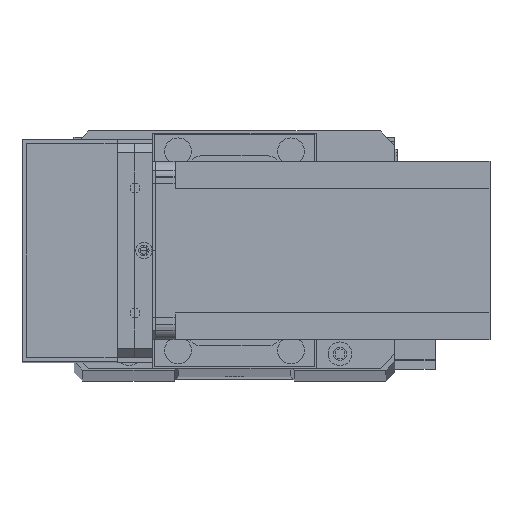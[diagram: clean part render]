
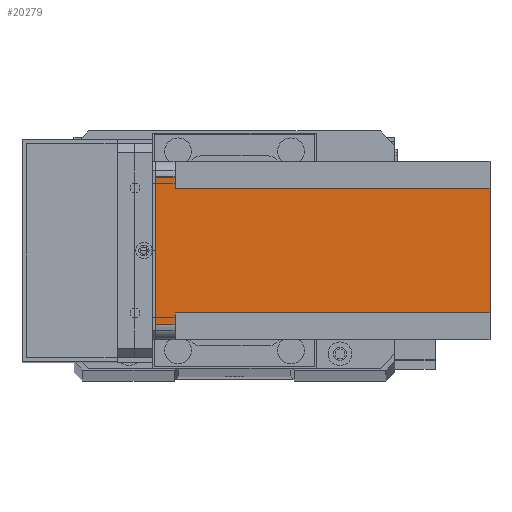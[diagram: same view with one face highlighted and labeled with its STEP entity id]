
A CAD part, top view. The second image highlights one B-rep face of the part: STEP entity #20279.
In plain terms, the highlighted planar face has unit normal (0, 0, 1) as drawn and (1, 0, 0) by its records, which use the part's own axes.
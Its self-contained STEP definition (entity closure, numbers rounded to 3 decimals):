
#136 = DIRECTION ( 'NONE',  ( 0., 0., 1. ) ) ;
#331 = LINE ( 'NONE', #11235, #26544 ) ;
#1109 = DIRECTION ( 'NONE',  ( 0., -1., 0. ) ) ;
#1323 = EDGE_LOOP ( 'NONE', ( #5227, #18314, #27863, #7318, #1377, #10550, #4519, #24403 ) ) ;
#1377 = ORIENTED_EDGE ( 'NONE', *, *, #31039, .F. ) ;
#1620 = VERTEX_POINT ( 'NONE', #7314 ) ;
#1891 = LINE ( 'NONE', #30210, #21368 ) ;
#2065 = VECTOR ( 'NONE', #3971, 1000. ) ;
#3132 = AXIS2_PLACEMENT_3D ( 'NONE', #15450, #20556, #5327 ) ;
#3971 = DIRECTION ( 'NONE',  ( 0., 0., -1. ) ) ;
#4093 = CARTESIAN_POINT ( 'NONE',  ( 60., 55., -6.5 ) ) ;
#4519 = ORIENTED_EDGE ( 'NONE', *, *, #14602, .T. ) ;
#4813 = EDGE_CURVE ( 'NONE', #21367, #29639, #8775, .T. ) ;
#5218 = PLANE ( 'NONE',  #3132 ) ;
#5227 = ORIENTED_EDGE ( 'NONE', *, *, #21858, .F. ) ;
#5327 = DIRECTION ( 'NONE',  ( 0., 1., 0. ) ) ;
#5756 = LINE ( 'NONE', #11071, #25225 ) ;
#5842 = LINE ( 'NONE', #30606, #18586 ) ;
#6790 = DIRECTION ( 'NONE',  ( 0., 0., -1. ) ) ;
#7314 = CARTESIAN_POINT ( 'NONE',  ( 60., 51., -112.5 ) ) ;
#7318 = ORIENTED_EDGE ( 'NONE', *, *, #4813, .T. ) ;
#7656 = CARTESIAN_POINT ( 'NONE',  ( 60., 51., -6.5 ) ) ;
#8471 = DIRECTION ( 'NONE',  ( 0., -1., 0. ) ) ;
#8775 = LINE ( 'NONE', #11660, #2065 ) ;
#8834 = EDGE_CURVE ( 'NONE', #12878, #22329, #29595, .T. ) ;
#10550 = ORIENTED_EDGE ( 'NONE', *, *, #8834, .F. ) ;
#11071 = CARTESIAN_POINT ( 'NONE',  ( 60., 60., -6.5 ) ) ;
#11235 = CARTESIAN_POINT ( 'NONE',  ( 60., 0., -6.5 ) ) ;
#11660 = CARTESIAN_POINT ( 'NONE',  ( 60., 5., -112.5 ) ) ;
#12064 = VECTOR ( 'NONE', #25606, 1000. ) ;
#12878 = VERTEX_POINT ( 'NONE', #17730 ) ;
#12967 = CARTESIAN_POINT ( 'NONE',  ( 60., 0., -112.5 ) ) ;
#13346 = FACE_OUTER_BOUND ( 'NONE', #1323, .T. ) ;
#13360 = EDGE_CURVE ( 'NONE', #17220, #27806, #5842, .T. ) ;
#14602 = EDGE_CURVE ( 'NONE', #12878, #1620, #18811, .T. ) ;
#14815 = DIRECTION ( 'NONE',  ( 0., 0., 1. ) ) ;
#15450 = CARTESIAN_POINT ( 'NONE',  ( 60., 0., -112.5 ) ) ;
#17220 = VERTEX_POINT ( 'NONE', #4093 ) ;
#17548 = DIRECTION ( 'NONE',  ( 0., 1., 0. ) ) ;
#17730 = CARTESIAN_POINT ( 'NONE',  ( 60., 9., -112.5 ) ) ;
#18314 = ORIENTED_EDGE ( 'NONE', *, *, #13360, .T. ) ;
#18515 = CARTESIAN_POINT ( 'NONE',  ( 60., 55., 0. ) ) ;
#18586 = VECTOR ( 'NONE', #136, 1000. ) ;
#18811 = LINE ( 'NONE', #12967, #12064 ) ;
#18936 = EDGE_CURVE ( 'NONE', #21367, #27806, #1891, .T. ) ;
#19467 = CARTESIAN_POINT ( 'NONE',  ( 60., 51., -112.5 ) ) ;
#20279 = ADVANCED_FACE ( 'NONE', ( #13346 ), #5218, .T. ) ;
#20556 = DIRECTION ( 'NONE',  ( 1., 0., 0. ) ) ;
#21367 = VERTEX_POINT ( 'NONE', #23859 ) ;
#21368 = VECTOR ( 'NONE', #17548, 1000. ) ;
#21858 = EDGE_CURVE ( 'NONE', #17220, #26528, #5756, .T. ) ;
#22329 = VERTEX_POINT ( 'NONE', #23248 ) ;
#22365 = CARTESIAN_POINT ( 'NONE',  ( 60., 9., -112.5 ) ) ;
#22830 = VECTOR ( 'NONE', #14815, 1000. ) ;
#23248 = CARTESIAN_POINT ( 'NONE',  ( 60., 9., -6.5 ) ) ;
#23409 = CARTESIAN_POINT ( 'NONE',  ( 60., 5., -6.5 ) ) ;
#23859 = CARTESIAN_POINT ( 'NONE',  ( 60., 5., 0. ) ) ;
#24403 = ORIENTED_EDGE ( 'NONE', *, *, #30598, .F. ) ;
#25225 = VECTOR ( 'NONE', #8471, 1000. ) ;
#25606 = DIRECTION ( 'NONE',  ( 0., 1., 0. ) ) ;
#25805 = VECTOR ( 'NONE', #6790, 1000. ) ;
#26528 = VERTEX_POINT ( 'NONE', #7656 ) ;
#26544 = VECTOR ( 'NONE', #1109, 1000. ) ;
#27806 = VERTEX_POINT ( 'NONE', #18515 ) ;
#27863 = ORIENTED_EDGE ( 'NONE', *, *, #18936, .F. ) ;
#29595 = LINE ( 'NONE', #22365, #22830 ) ;
#29639 = VERTEX_POINT ( 'NONE', #23409 ) ;
#30210 = CARTESIAN_POINT ( 'NONE',  ( 60., 0., 0. ) ) ;
#30598 = EDGE_CURVE ( 'NONE', #26528, #1620, #32581, .T. ) ;
#30606 = CARTESIAN_POINT ( 'NONE',  ( 60., 55., -112.5 ) ) ;
#31039 = EDGE_CURVE ( 'NONE', #22329, #29639, #331, .T. ) ;
#32581 = LINE ( 'NONE', #19467, #25805 ) ;
